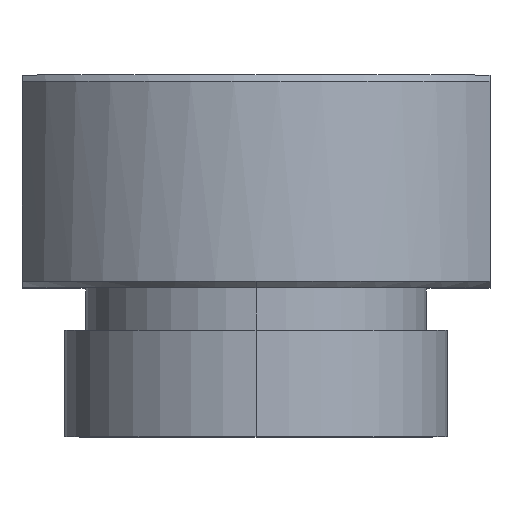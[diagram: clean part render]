
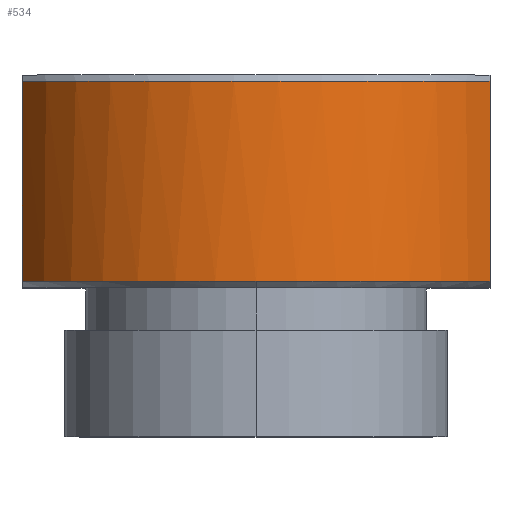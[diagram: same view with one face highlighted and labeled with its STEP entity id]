
A CAD part, top view. The second image highlights one B-rep face of the part: STEP entity #534.
In plain terms, the highlighted cylindrical face has radius 12.5 mm (diameter 25 mm), a partial arc.
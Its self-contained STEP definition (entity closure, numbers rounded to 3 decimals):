
#25 = CARTESIAN_POINT ( 'NONE',  ( 0., 10., 0. ) ) ;
#61 = VECTOR ( 'NONE', #637, 1000. ) ;
#65 = CARTESIAN_POINT ( 'NONE',  ( 11., 9.7, 5.937 ) ) ;
#125 = CARTESIAN_POINT ( 'NONE',  ( -11., 10., 5.937 ) ) ;
#138 = ORIENTED_EDGE ( 'NONE', *, *, #370, .T. ) ;
#167 = VERTEX_POINT ( 'NONE', #877 ) ;
#172 = CIRCLE ( 'NONE', #713, 12.5 ) ;
#193 = CARTESIAN_POINT ( 'NONE',  ( 0., 0.3, 0. ) ) ;
#194 = ORIENTED_EDGE ( 'NONE', *, *, #783, .T. ) ;
#255 = VERTEX_POINT ( 'NONE', #65 ) ;
#260 = DIRECTION ( 'NONE',  ( 0., 1., 0. ) ) ;
#267 = CARTESIAN_POINT ( 'NONE',  ( 11., 10., 5.937 ) ) ;
#316 = ORIENTED_EDGE ( 'NONE', *, *, #359, .F. ) ;
#347 = DIRECTION ( 'NONE',  ( 0., 0., 1. ) ) ;
#349 = VERTEX_POINT ( 'NONE', #928 ) ;
#359 = EDGE_CURVE ( 'NONE', #255, #587, #663, .T. ) ;
#360 = EDGE_CURVE ( 'NONE', #638, #349, #872, .T. ) ;
#370 = EDGE_CURVE ( 'NONE', #167, #587, #172, .T. ) ;
#376 = AXIS2_PLACEMENT_3D ( 'NONE', #537, #609, #544 ) ;
#412 = DIRECTION ( 'NONE',  ( 0., -1., 0. ) ) ;
#470 = CIRCLE ( 'NONE', #376, 12.5 ) ;
#471 = EDGE_LOOP ( 'NONE', ( #629, #762, #138, #316, #194 ) ) ;
#482 = AXIS2_PLACEMENT_3D ( 'NONE', #705, #260, #347 ) ;
#504 = CYLINDRICAL_SURFACE ( 'NONE', #672, 12.5 ) ;
#513 = CARTESIAN_POINT ( 'NONE',  ( 11., 0.3, 5.937 ) ) ;
#534 = ADVANCED_FACE ( 'NONE', ( #573 ), #504, .T. ) ;
#537 = CARTESIAN_POINT ( 'NONE',  ( 0., 9.7, 0. ) ) ;
#544 = DIRECTION ( 'NONE',  ( 0., 0., 1. ) ) ;
#558 = DIRECTION ( 'NONE',  ( 0., -1., 0. ) ) ;
#573 = FACE_OUTER_BOUND ( 'NONE', #471, .T. ) ;
#587 = VERTEX_POINT ( 'NONE', #513 ) ;
#609 = DIRECTION ( 'NONE',  ( 0., -1., 0. ) ) ;
#629 = ORIENTED_EDGE ( 'NONE', *, *, #360, .F. ) ;
#637 = DIRECTION ( 'NONE',  ( 0., 1., 0. ) ) ;
#638 = VERTEX_POINT ( 'NONE', #819 ) ;
#663 = LINE ( 'NONE', #267, #721 ) ;
#672 = AXIS2_PLACEMENT_3D ( 'NONE', #25, #412, #925 ) ;
#705 = CARTESIAN_POINT ( 'NONE',  ( 0., 0.3, 0. ) ) ;
#713 = AXIS2_PLACEMENT_3D ( 'NONE', #193, #801, #927 ) ;
#718 = CIRCLE ( 'NONE', #482, 12.5 ) ;
#721 = VECTOR ( 'NONE', #558, 1000. ) ;
#724 = EDGE_CURVE ( 'NONE', #638, #167, #718, .T. ) ;
#762 = ORIENTED_EDGE ( 'NONE', *, *, #724, .T. ) ;
#783 = EDGE_CURVE ( 'NONE', #255, #349, #470, .T. ) ;
#801 = DIRECTION ( 'NONE',  ( 0., 1., 0. ) ) ;
#819 = CARTESIAN_POINT ( 'NONE',  ( -11., 0.3, 5.937 ) ) ;
#872 = LINE ( 'NONE', #125, #61 ) ;
#877 = CARTESIAN_POINT ( 'NONE',  ( 0., 0.3, 12.5 ) ) ;
#925 = DIRECTION ( 'NONE',  ( 0., 0., -1. ) ) ;
#927 = DIRECTION ( 'NONE',  ( 0., 0., 1. ) ) ;
#928 = CARTESIAN_POINT ( 'NONE',  ( -11., 9.7, 5.937 ) ) ;
